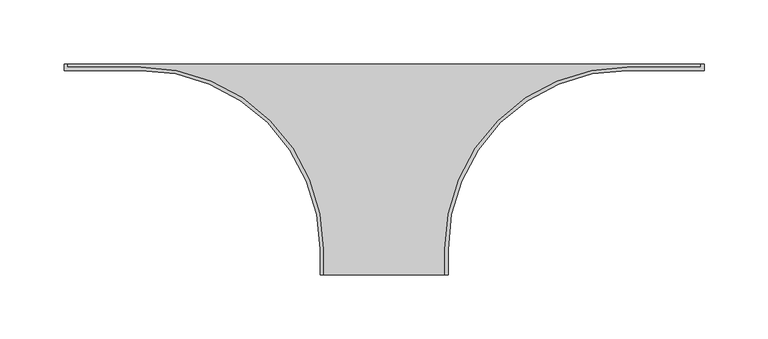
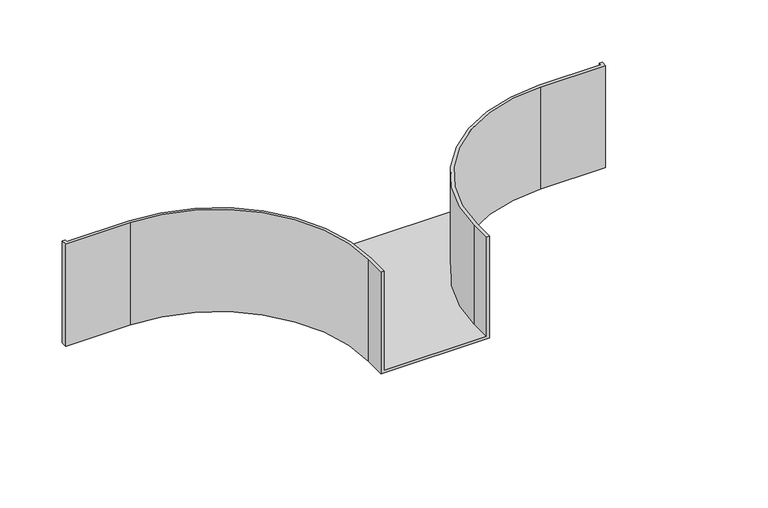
"""IFC4 building model written with IfcOpenShell, lengths in millimetres: cable carrier fitting geometry, BAKS_Tee_TKZD : TKZDPH100."""

from ifc_helpers import new_model, si_unit, frame, origin, place, context, project, spatial, polyline, circle_curve, source, transform, mapped, element, save
from ifc_brep_helpers import plane_surface, cylinder_surface, revolved_surface, advanced_brep


def cable_carrier_fitting_143960b7(model_context):
    return source(origin(), model_context, "Body", "AdvancedBrep", [
        advanced_brep(
        [(-50.0, -145.08, 50.0), (-50.0, -165.08, 50.0), (-47.46, -165.08, 50.0), (-47.46, -145.08, 50.0), (-190.0, -2.54, 50.0), (-247.46, -2.54, 50.0), (-247.46, 0.0, 50.0), (-250.0, 0.0, 50.0), (-250.0, -5.08, 50.0), (-190.0, -5.08, 50.0), (50.0, -145.08, 50.0), (190.0, -5.08, 50.0), (250.0, -5.08, 50.0), (250.0, 0.0, 50.0), (247.46, 0.0, 50.0), (247.46, -2.54, 50.0), (190.0, -2.54, 50.0), (47.46, -145.08, 50.0), (47.46, -165.08, 50.0), (50.0, -165.08, 50.0), (-50.0, -145.08, -50.0), (-190.0, -5.08, -50.0), (-250.0, -5.08, -50.0), (-250.0, 0.0, -50.0), (250.0, 0.0, -50.0), (250.0, -5.08, -50.0), (190.0, -5.08, -50.0), (50.0, -145.08, -50.0), (50.0, -165.08, -50.0), (-50.0, -165.08, -50.0), (-50.0, -145.08, -47.46), (47.46, -165.08, -47.46), (-47.46, -165.08, -47.46), (-47.46, -145.08, -47.46), (-190.0, -2.54, -47.46), (-247.46, -2.54, -47.46), (-190.0, -5.08, -47.46), (50.0, -145.08, -47.46), (190.0, -5.08, -47.46), (247.46, -2.54, -47.46), (190.0, -2.54, -47.46), (47.46, -145.08, -47.46), (247.46, 0.0, -47.46), (-247.46, 0.0, -47.46)],
        [
            (0, 1),
            (1, 2),
            (2, 3),
            (3, 4, circle_curve(frame((-190.0, -145.08, 50.0), z_axis=(0.0, 0.0, 1.0), x_axis=(1.0, 0.0, 0.0)), 142.54)),
            (4, 5),
            (5, 6),
            (6, 7),
            (7, 8),
            (8, 9),
            (9, 0, circle_curve(frame((-190.0, -145.08, 50.0), z_axis=(0.0, 0.0, -1.0), x_axis=(1.0, 0.0, 0.0)), 140.0)),
            (10, 11, circle_curve(frame((190.0, -145.08, 50.0), z_axis=(0.0, 0.0, -1.0), x_axis=(1.0, 0.0, 0.0)), 140.0)),
            (11, 12),
            (12, 13),
            (13, 14),
            (14, 15),
            (15, 16),
            (16, 17, circle_curve(frame((190.0, -145.08, 50.0), z_axis=(0.0, 0.0, 1.0), x_axis=(1.0, 0.0, 0.0)), 142.54)),
            (17, 18),
            (18, 19),
            (19, 10),
            (20, 21, circle_curve(frame((-190.0, -145.08, -50.0), z_axis=(0.0, 0.0, 1.0), x_axis=(1.0, 0.0, 0.0)), 140.0)),
            (21, 22),
            (22, 23),
            (23, 24),
            (24, 25),
            (25, 26),
            (26, 27, circle_curve(frame((190.0, -145.08, -50.0), z_axis=(0.0, 0.0, 1.0), x_axis=(1.0, 0.0, 0.0)), 140.0)),
            (27, 28),
            (28, 29),
            (29, 20),
            (29, 1),
            (0, 30),
            (30, 20),
            (28, 19),
            (18, 31),
            (31, 32),
            (32, 2),
            (32, 33),
            (33, 3),
            (33, 34, circle_curve(frame((-190.0, -145.08, -47.46), z_axis=(0.0, 0.0, 1.0), x_axis=(1.0, 0.0, 0.0)), 142.54)),
            (34, 4),
            (34, 35),
            (35, 5),
            (8, 22),
            (21, 36),
            (36, 9),
            (10, 37),
            (37, 27),
            (26, 38),
            (38, 11),
            (25, 12),
            (15, 39),
            (39, 40),
            (40, 16),
            (40, 41, circle_curve(frame((190.0, -145.08, -47.46), z_axis=(0.0, 0.0, 1.0), x_axis=(1.0, 0.0, 0.0)), 142.54)),
            (41, 17),
            (41, 31),
            (42, 43),
            (43, 35),
            (39, 42),
            (43, 6),
            (42, 14),
            (13, 24),
            (23, 7),
        ],
        [
            plane_surface(frame((-50.0, -145.08, 50.0), z_axis=(0.0, 0.0, 1.0), x_axis=(0.0, -1.0, 0.0))),
            plane_surface(frame((-50.0, -145.08, -50.0), z_axis=(0.0, 0.0, -1.0), x_axis=(0.0, 1.0, 0.0))),
            plane_surface(frame((-50.0, -145.08, 50.0), z_axis=(-1.0, 0.0, 0.0), x_axis=(0.0, 0.0, -1.0))),
            plane_surface(frame((-50.0, -165.08, 50.0), z_axis=(0.0, -1.0, 0.0), x_axis=(0.0, 0.0, -1.0))),
            plane_surface(frame((-47.46, -165.08, 50.0), z_axis=(1.0, 0.0, 0.0), x_axis=(0.0, 0.0, -1.0))),
            cylinder_surface(frame((-190.0, -145.08, -50.0), z_axis=(0.0, 0.0, 1.0), x_axis=(1.0, 0.0, 0.0)), 142.54),
            plane_surface(frame((-190.0, -2.54, 50.0), z_axis=(0.0, 1.0, 0.0), x_axis=(0.0, 0.0, -1.0))),
            plane_surface(frame((-250.0, -5.08, 50.0), z_axis=(0.0, -1.0, 0.0), x_axis=(0.0, 0.0, -1.0))),
            revolved_surface(polyline([(-50.0, -145.08, -50.0), (-50.0, -145.08, 50.0)]), (-190.0, -145.08, -50.0), (0.0, 0.0, -1.0)),
            revolved_surface(polyline([(330.0, -145.08, -50.0), (330.0, -145.08, 50.0)]), (190.0, -145.08, 0.0), (0.0, 0.0, -1.0)),
            plane_surface(frame((190.0, -5.08, 50.0), z_axis=(0.0, -1.0, 0.0), x_axis=(0.0, 0.0, -1.0))),
            plane_surface(frame((247.46, -2.54, 50.0), z_axis=(0.0, 1.0, 0.0), x_axis=(0.0, 0.0, -1.0))),
            cylinder_surface(frame((190.0, -145.08, 0.0), z_axis=(0.0, 0.0, 1.0), x_axis=(1.0, 0.0, 0.0)), 142.54),
            plane_surface(frame((47.46, -145.08, 50.0), z_axis=(-1.0, 0.0, 0.0), x_axis=(0.0, 0.0, -1.0))),
            plane_surface(frame((50.0, -165.08, 50.0), z_axis=(1.0, 0.0, 0.0), x_axis=(0.0, 0.0, -1.0))),
            plane_surface(frame((-50.0, -145.08, -47.46), z_axis=(0.0, 0.0, 1.0), x_axis=(0.0, -1.0, 0.0))),
            plane_surface(frame((-247.46, -2.54, 50.0), z_axis=(1.0, 0.0, 0.0), x_axis=(0.0, 0.0, -1.0))),
            plane_surface(frame((-247.46, 0.0, 50.0), z_axis=(0.0, 1.0, 0.0), x_axis=(0.0, 0.0, -1.0))),
            plane_surface(frame((-250.0, 0.0, 50.0), z_axis=(-1.0, 0.0, 0.0), x_axis=(0.0, 0.0, -1.0))),
            plane_surface(frame((250.0, -5.08, 50.0), z_axis=(1.0, 0.0, 0.0), x_axis=(0.0, 0.0, -1.0))),
            plane_surface(frame((247.46, 0.0, 50.0), z_axis=(-1.0, 0.0, 0.0), x_axis=(0.0, 0.0, -1.0))),
        ],
        [
            (0, [[1, 2, 3, 4, 5, 6, 7, 8, 9, 10]]),
            (0, [[11, 12, 13, 14, 15, 16, 17, 18, 19, 20]]),
            (1, [[21, 22, 23, 24, 25, 26, 27, 28, 29, 30]]),
            (2, [[31, -1, 32, 33, -30]]),
            (3, [[-2, -31, -29, 34, -19, 35, 36, 37]]),
            (4, [[-3, -37, 38, 39]]),
            (5, [[-4, -39, 40, 41]]),
            (6, [[-5, -41, 42, 43]]),
            (7, [[-9, 44, -22, 45, 46]]),
            (8, [[-10, -46, -45, -21, -33, -32]]),
            (9, [[-11, 47, 48, -27, 49, 50]]),
            (10, [[-12, -50, -49, -26, 51]]),
            (11, [[-16, 52, 53, 54]]),
            (12, [[-17, -54, 55, 56]]),
            (13, [[-18, -56, 57, -35]]),
            (14, [[-20, -34, -28, -48, -47]]),
            (15, [[58, 59, -42, -40, -38, -36, -57, -55, -53, 60]]),
            (16, [[-6, -43, -59, 61]]),
            (17, [[-7, -61, -58, 62, -14, 63, -24, 64]]),
            (18, [[-8, -64, -23, -44]]),
            (19, [[-13, -51, -25, -63]]),
            (20, [[-15, -62, -60, -52]]),
        ],
    ),
    ])


if __name__ == "__main__":
    model = new_model("IFC4")
    model_context = context("Model", 3, world=origin())
    ifc_project = project(units=[si_unit("LENGTHUNIT", "METRE", prefix="MILLI")], contexts=[model_context])
    site = spatial("IfcSite", under=ifc_project)
    building = spatial("IfcBuilding", under=site)
    placement = place(None, origin())
    cable_carrier_fitting_shape = cable_carrier_fitting_143960b7(model_context)
    element("IfcCableCarrierFitting", 1, ObjectType="BAKS_Tee_TKZD : TKZDPH100", at=placement, inside=building, context=model_context, shape_type="MappedRepresentation", body=[
        mapped(cable_carrier_fitting_shape, transform((0.0, 0.0, 0.0), x_axis=(1.0, 0.0, 0.0), y_axis=(0.0, 1.0, 0.0), z_axis=(0.0, 0.0, 1.0))),
    ])
    save(model, "model.ifc")
